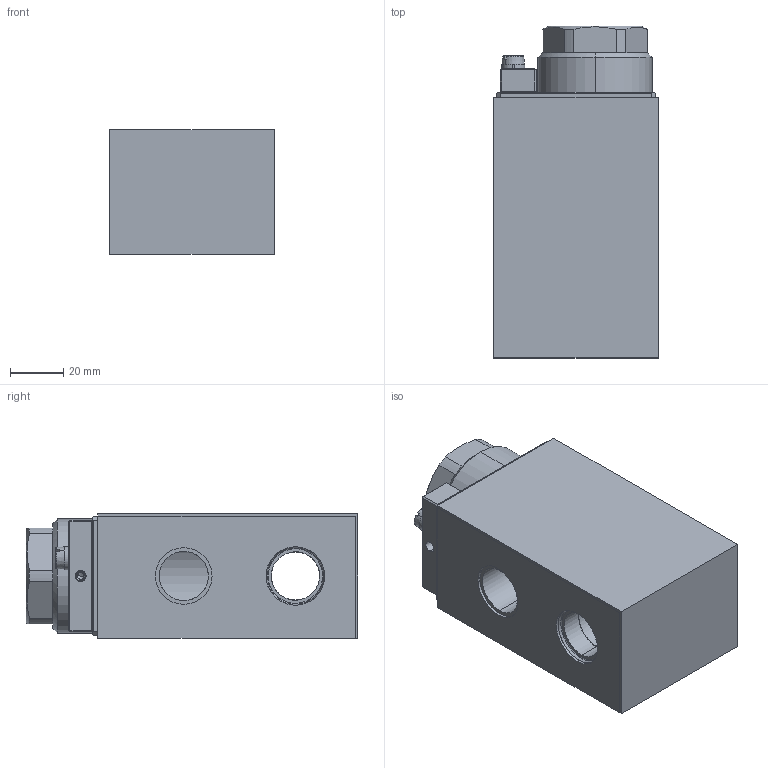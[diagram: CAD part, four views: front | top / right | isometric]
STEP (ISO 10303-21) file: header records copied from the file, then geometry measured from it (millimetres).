
FILE_DESCRIPTION (( 'STEP AP214' ), '1' );
FILE_NAME ('MKY45_18x60-K9M248.STEP', '2019-06-25T09:32:38', ( '' ), ( '' ), 'SwSTEP 2.0', 'SolidWorks 2018', '' );
FILE_SCHEMA (( 'AUTOMOTIVE_DESIGN' ));
Length unit declared in the file: millimetre
Products named in the file (1): MKY45_18x60-K9M248
Bounding box: 62 x 124.8 x 47 mm (x, y, z)
Volume: 212685.2 mm3; surface area: 120224.8 mm2
Topology: 14 solids, 14 shells, 507 faces, 1225 edges, 762 vertices
Faces by surface type: plane 259, cylinder 148, cone 68, torus 30, bspline 2
Entity records: 21036 total; most frequent: CARTESIAN_POINT 3282, DIRECTION 2586, ORIENTED_EDGE 2414, EDGE_CURVE 1207, AXIS2_PLACEMENT_3D 950, VERTEX_POINT 762, LINE 686, VECTOR 686
